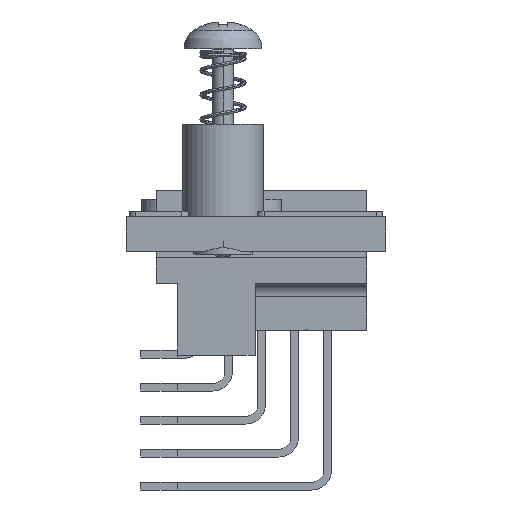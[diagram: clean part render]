
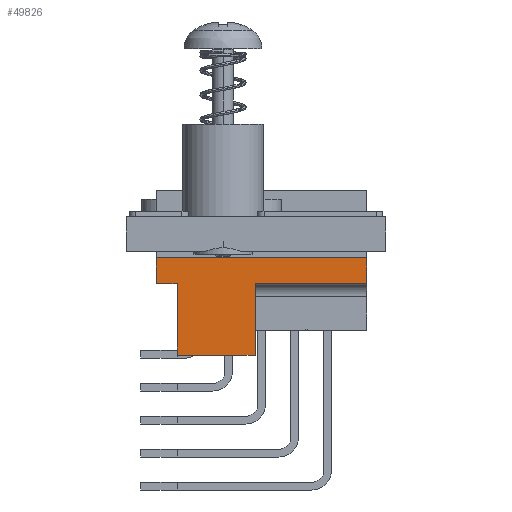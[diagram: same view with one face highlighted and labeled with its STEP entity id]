
A CAD part, front view. The second image highlights one B-rep face of the part: STEP entity #49826.
In plain terms, the highlighted planar face has unit normal (0, -1, 0).
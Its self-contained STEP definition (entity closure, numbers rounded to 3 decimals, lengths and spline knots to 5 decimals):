
#2538=DIRECTION('',(0.,0.,-1.));
#2539=VECTOR('',#2538,0.21654);
#2540=CARTESIAN_POINT('',(0.23622,-4.08343,
-0.00283));
#2541=LINE('',#2540,#2539);
#2542=DIRECTION('',(-1.,0.,0.));
#2543=VECTOR('',#2542,0.23622);
#2544=CARTESIAN_POINT('',(0.23622,-4.08343,
-0.21936));
#2545=LINE('',#2544,#2543);
#2546=DIRECTION('',(0.,0.,1.));
#2547=VECTOR('',#2546,0.21654);
#2548=CARTESIAN_POINT('',(0.,-4.08343,-0.21936));
#2549=LINE('',#2548,#2547);
#2550=DIRECTION('',(-1.,0.,0.));
#2551=VECTOR('',#2550,0.06299);
#2552=CARTESIAN_POINT('',(0.,-4.08343,-0.00283));
#2553=LINE('',#2552,#2551);
#2554=DIRECTION('',(0.,0.,1.));
#2555=VECTOR('',#2554,0.07874);
#2556=CARTESIAN_POINT('',(-0.06299,-4.08343,
-0.00283));
#2557=LINE('',#2556,#2555);
#2558=DIRECTION('',(1.,0.,0.));
#2559=VECTOR('',#2558,0.6378);
#2560=CARTESIAN_POINT('',(-0.06299,-4.08343,
0.07591));
#2561=LINE('',#2560,#2559);
#2562=DIRECTION('',(0.,0.,-1.));
#2563=VECTOR('',#2562,0.07874);
#2564=CARTESIAN_POINT('',(0.5748,-4.08343,
0.07591));
#2565=LINE('',#2564,#2563);
#2593=DIRECTION('',(1.,0.,0.));
#2594=VECTOR('',#2593,0.33858);
#2595=CARTESIAN_POINT('',(0.23622,-4.08343,
-0.00283));
#2596=LINE('',#2595,#2594);
#35525=CARTESIAN_POINT('',(0.23622,-4.08343,
-0.00283));
#35526=CARTESIAN_POINT('',(0.23622,-4.08343,
-0.21936));
#35527=VERTEX_POINT('',#35525);
#35528=VERTEX_POINT('',#35526);
#35553=CARTESIAN_POINT('',(0.,-4.08343,-0.21936));
#35554=VERTEX_POINT('',#35553);
#35555=CARTESIAN_POINT('',(0.,-4.08343,-0.00283));
#35556=VERTEX_POINT('',#35555);
#35557=CARTESIAN_POINT('',(-0.06299,-4.08343,
-0.00283));
#35558=VERTEX_POINT('',#35557);
#35559=CARTESIAN_POINT('',(-0.06299,-4.08343,
0.07591));
#35560=VERTEX_POINT('',#35559);
#35561=CARTESIAN_POINT('',(0.5748,-4.08343,
0.07591));
#35562=VERTEX_POINT('',#35561);
#35563=CARTESIAN_POINT('',(0.5748,-4.08343,
-0.00283));
#35564=VERTEX_POINT('',#35563);
#49808=CARTESIAN_POINT('',(0.25591,-4.08343,
0.28064));
#49809=DIRECTION('',(0.,-1.,0.));
#49810=DIRECTION('',(-1.,0.,0.));
#49811=AXIS2_PLACEMENT_3D('',#49808,#49809,#49810);
#49812=PLANE('',#49811);
#49814=ORIENTED_EDGE('',*,*,#49813,.T.);
#49816=ORIENTED_EDGE('',*,*,#49815,.T.);
#49817=ORIENTED_EDGE('',*,*,#49736,.T.);
#49818=ORIENTED_EDGE('',*,*,#49766,.T.);
#49819=ORIENTED_EDGE('',*,*,#49779,.T.);
#49820=ORIENTED_EDGE('',*,*,#49799,.T.);
#49821=ORIENTED_EDGE('',*,*,#49622,.T.);
#49823=ORIENTED_EDGE('',*,*,#49822,.F.);
#49824=EDGE_LOOP('',(#49814,#49816,#49817,#49818,#49819,#49820,#49821,#49823));
#49825=FACE_OUTER_BOUND('',#49824,.F.);
#49826=ADVANCED_FACE('',(#49825),#49812,.T.);
#49622=EDGE_CURVE('',#35562,#35564,#2565,.T.);
#49736=EDGE_CURVE('',#35554,#35556,#2549,.T.);
#49766=EDGE_CURVE('',#35556,#35558,#2553,.T.);
#49779=EDGE_CURVE('',#35558,#35560,#2557,.T.);
#49799=EDGE_CURVE('',#35560,#35562,#2561,.T.);
#49813=EDGE_CURVE('',#35527,#35528,#2541,.T.);
#49815=EDGE_CURVE('',#35528,#35554,#2545,.T.);
#49822=EDGE_CURVE('',#35527,#35564,#2596,.T.);
